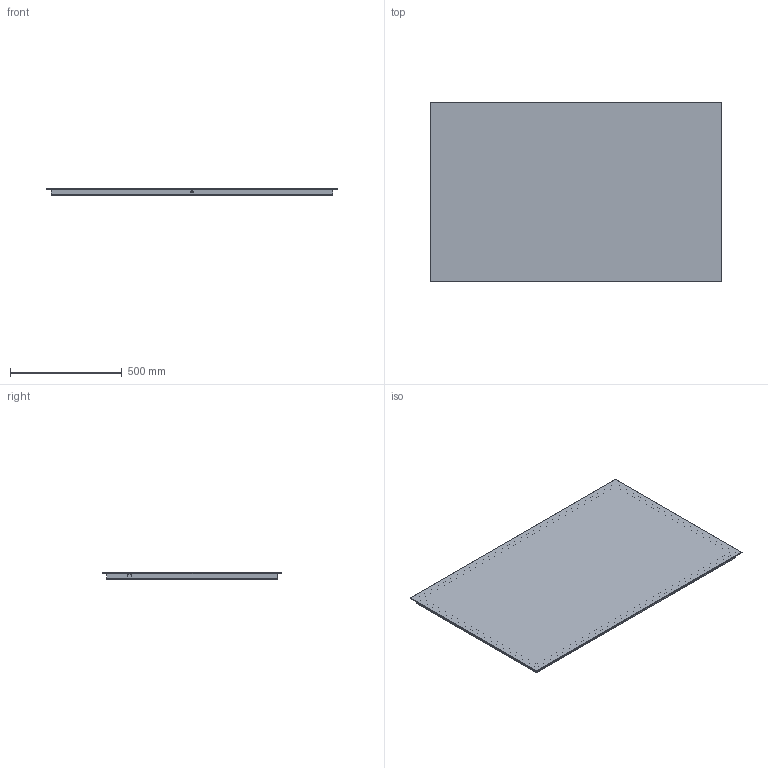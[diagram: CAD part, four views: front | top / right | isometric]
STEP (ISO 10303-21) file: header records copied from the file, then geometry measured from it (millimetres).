
FILE_DESCRIPTION (( 'STEP AP203' ), '1' );
FILE_NAME ('SPIEGEL MODEL 12 130CM.STEP', '2016-07-14T09:43:40', ( '' ), ( '' ), 'SwSTEP 2.0', 'SolidWorks 2016', '' );
FILE_SCHEMA (( 'CONFIG_CONTROL_DESIGN' ));
Length unit declared in the file: millimetre
Products named in the file (1): SPIEGEL MODEL 12 130CM
Bounding box: 1300 x 800 x 30 mm (x, y, z)
Volume: 5693150.7 mm3; surface area: 2303734.9 mm2
Topology: 1 solids, 1 shells, 53 faces, 114 edges, 68 vertices
Faces by surface type: plane 47, cylinder 6
Entity records: 1469 total; most frequent: CARTESIAN_POINT 236, DIRECTION 234, ORIENTED_EDGE 228, EDGE_CURVE 114, VECTOR 102, LINE 102, VERTEX_POINT 68, AXIS2_PLACEMENT_3D 66
